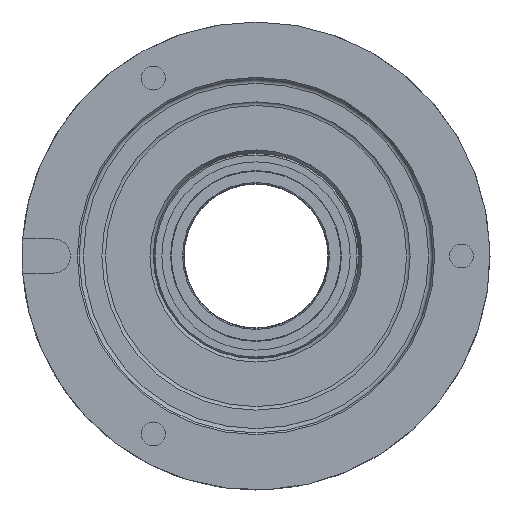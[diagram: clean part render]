
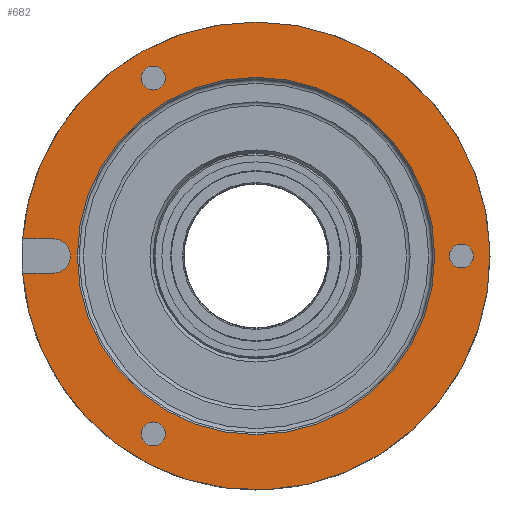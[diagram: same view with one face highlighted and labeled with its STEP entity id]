
A CAD part, left-side view. The second image highlights one B-rep face of the part: STEP entity #682.
In plain terms, the highlighted planar face has unit normal (-1, 0, 0).
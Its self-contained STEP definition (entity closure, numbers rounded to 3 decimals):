
#20 = EDGE_LOOP ( 'NONE', ( #1471 ) ) ;
#77 = ORIENTED_EDGE ( 'NONE', *, *, #2392, .T. ) ;
#103 = EDGE_CURVE ( 'NONE', #187, #187, #1534, .T. ) ;
#120 = VERTEX_POINT ( 'NONE', #541 ) ;
#124 = VERTEX_POINT ( 'NONE', #935 ) ;
#173 = ORIENTED_EDGE ( 'NONE', *, *, #103, .F. ) ;
#187 = VERTEX_POINT ( 'NONE', #895 ) ;
#315 = CIRCLE ( 'NONE', #839, 2.1 ) ;
#321 = DIRECTION ( 'NONE',  ( -1., 0., 0. ) ) ;
#325 = FACE_BOUND ( 'NONE', #20, .T. ) ;
#326 = CARTESIAN_POINT ( 'NONE',  ( 0., 35.5, 0. ) ) ;
#331 = EDGE_CURVE ( 'NONE', #1161, #1227, #1257, .T. ) ;
#363 = VECTOR ( 'NONE', #2095, 1000. ) ;
#403 = DIRECTION ( 'NONE',  ( -1., 0., 0. ) ) ;
#421 = CIRCLE ( 'NONE', #1804, 2.1 ) ;
#464 = CARTESIAN_POINT ( 'NONE',  ( 0., 35.5, 3. ) ) ;
#499 = AXIS2_PLACEMENT_3D ( 'NONE', #728, #321, #2370 ) ;
#517 = EDGE_CURVE ( 'NONE', #2286, #1078, #1010, .T. ) ;
#527 = DIRECTION ( 'NONE',  ( 0., 0., 1. ) ) ;
#541 = CARTESIAN_POINT ( 'NONE',  ( 0., -36., 2.1 ) ) ;
#568 = CARTESIAN_POINT ( 'NONE',  ( 0., 18., 31.177 ) ) ;
#617 = CARTESIAN_POINT ( 'NONE',  ( 0., 0., 0. ) ) ;
#682 = ADVANCED_FACE ( 'NONE', ( #2636, #1313, #325, #874, #1037 ), #828, .T. ) ;
#716 = VECTOR ( 'NONE', #1746, 1000. ) ;
#728 = CARTESIAN_POINT ( 'NONE',  ( 0., 0., 0. ) ) ;
#782 = DIRECTION ( 'NONE',  ( 0., 0., 1. ) ) ;
#789 = EDGE_CURVE ( 'NONE', #1078, #1161, #1279, .T. ) ;
#821 = EDGE_LOOP ( 'NONE', ( #173 ) ) ;
#828 = PLANE ( 'NONE',  #2040 ) ;
#839 = AXIS2_PLACEMENT_3D ( 'NONE', #568, #2312, #2330 ) ;
#852 = EDGE_CURVE ( 'NONE', #124, #124, #421, .T. ) ;
#874 = FACE_OUTER_BOUND ( 'NONE', #1105, .T. ) ;
#895 = CARTESIAN_POINT ( 'NONE',  ( 0., 0., 31.3 ) ) ;
#935 = CARTESIAN_POINT ( 'NONE',  ( 0., 18., -29.077 ) ) ;
#972 = CARTESIAN_POINT ( 'NONE',  ( 0., 18., -31.177 ) ) ;
#977 = CARTESIAN_POINT ( 'NONE',  ( 0., 18., 33.277 ) ) ;
#1010 = LINE ( 'NONE', #1882, #363 ) ;
#1035 = DIRECTION ( 'NONE',  ( 0., 0., 1. ) ) ;
#1037 = FACE_BOUND ( 'NONE', #821, .T. ) ;
#1078 = VERTEX_POINT ( 'NONE', #1189 ) ;
#1092 = ORIENTED_EDGE ( 'NONE', *, *, #517, .F. ) ;
#1105 = EDGE_LOOP ( 'NONE', ( #1092, #77, #2122, #1972 ) ) ;
#1161 = VERTEX_POINT ( 'NONE', #464 ) ;
#1189 = CARTESIAN_POINT ( 'NONE',  ( 0., 35.5, -3. ) ) ;
#1211 = CARTESIAN_POINT ( 'NONE',  ( 0., -31.3, 0. ) ) ;
#1227 = VERTEX_POINT ( 'NONE', #2323 ) ;
#1236 = EDGE_LOOP ( 'NONE', ( #1288 ) ) ;
#1257 = LINE ( 'NONE', #1960, #716 ) ;
#1279 = CIRCLE ( 'NONE', #2005, 3. ) ;
#1288 = ORIENTED_EDGE ( 'NONE', *, *, #2000, .F. ) ;
#1313 = FACE_BOUND ( 'NONE', #1236, .T. ) ;
#1361 = DIRECTION ( 'NONE',  ( -1., 0., 0. ) ) ;
#1377 = DIRECTION ( 'NONE',  ( -1., 0., 0. ) ) ;
#1395 = CARTESIAN_POINT ( 'NONE',  ( 0., -36., 0. ) ) ;
#1445 = ORIENTED_EDGE ( 'NONE', *, *, #852, .F. ) ;
#1458 = CIRCLE ( 'NONE', #1943, 2.1 ) ;
#1471 = ORIENTED_EDGE ( 'NONE', *, *, #2269, .F. ) ;
#1484 = VERTEX_POINT ( 'NONE', #977 ) ;
#1534 = CIRCLE ( 'NONE', #499, 31.3 ) ;
#1739 = DIRECTION ( 'NONE',  ( -1., 0., 0. ) ) ;
#1746 = DIRECTION ( 'NONE',  ( 0., 1., 0. ) ) ;
#1804 = AXIS2_PLACEMENT_3D ( 'NONE', #972, #1361, #2396 ) ;
#1806 = CARTESIAN_POINT ( 'NONE',  ( 0., 40.89, -3. ) ) ;
#1882 = CARTESIAN_POINT ( 'NONE',  ( 0., 35.5, -3. ) ) ;
#1943 = AXIS2_PLACEMENT_3D ( 'NONE', #1395, #1377, #782 ) ;
#1960 = CARTESIAN_POINT ( 'NONE',  ( 0., 35.5, 3. ) ) ;
#1972 = ORIENTED_EDGE ( 'NONE', *, *, #789, .F. ) ;
#2000 = EDGE_CURVE ( 'NONE', #1484, #1484, #315, .T. ) ;
#2005 = AXIS2_PLACEMENT_3D ( 'NONE', #326, #1739, #527 ) ;
#2040 = AXIS2_PLACEMENT_3D ( 'NONE', #1211, #2057, #2042 ) ;
#2042 = DIRECTION ( 'NONE',  ( 0., 0., 1. ) ) ;
#2057 = DIRECTION ( 'NONE',  ( -1., 0., 0. ) ) ;
#2095 = DIRECTION ( 'NONE',  ( 0., -1., 0. ) ) ;
#2100 = AXIS2_PLACEMENT_3D ( 'NONE', #617, #403, #1035 ) ;
#2122 = ORIENTED_EDGE ( 'NONE', *, *, #331, .F. ) ;
#2178 = CIRCLE ( 'NONE', #2100, 41. ) ;
#2269 = EDGE_CURVE ( 'NONE', #120, #120, #1458, .T. ) ;
#2286 = VERTEX_POINT ( 'NONE', #1806 ) ;
#2312 = DIRECTION ( 'NONE',  ( -1., 0., 0. ) ) ;
#2323 = CARTESIAN_POINT ( 'NONE',  ( 0., 40.89, 3. ) ) ;
#2330 = DIRECTION ( 'NONE',  ( 0., 0., 1. ) ) ;
#2370 = DIRECTION ( 'NONE',  ( 0., 0., 1. ) ) ;
#2392 = EDGE_CURVE ( 'NONE', #2286, #1227, #2178, .T. ) ;
#2396 = DIRECTION ( 'NONE',  ( 0., 0., 1. ) ) ;
#2577 = EDGE_LOOP ( 'NONE', ( #1445 ) ) ;
#2636 = FACE_BOUND ( 'NONE', #2577, .T. ) ;
